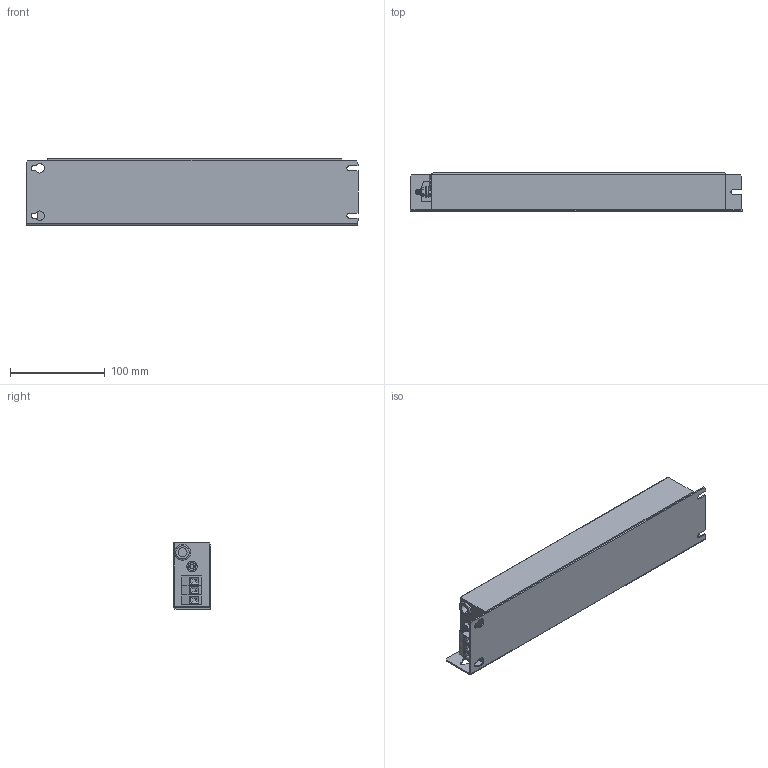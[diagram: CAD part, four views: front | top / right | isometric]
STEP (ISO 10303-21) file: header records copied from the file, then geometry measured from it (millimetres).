
FILE_DESCRIPTION (( 'STEP AP203' ), '1' );
FILE_NAME ('NF-U-LE-8400-34008.STEP', '2024-04-16T13:20:04', ( '' ), ( '' ), 'SwSTEP 2.0', 'SolidWorks 2017', '' );
FILE_SCHEMA (( 'CONFIG_CONTROL_DESIGN' ));
Length unit declared in the file: millimetre
Products named in the file (9): Grommet_15084; NF-U-LE-8400-34008; VDFK-4; M5x13 Earth post; hex screw_am_B18.6.7M - M5 x 0.8 x 13 Indented HHMS --13S; hex nut style 1_am_B18.2.4.1M - Hex nut, Style 1,  M5 x 0.8 --D-N; VDFK4x3; 84LZ3; flat washer narrow_am_B18.22M - Plain washer, 5 mm, narrow
Assembly tree (11 placements, depth 3):
  NF-U-LE-8400-34008
    84LZ3
    Grommet_15084
    VDFK4x3
      VDFK-4  x3
    M5x13 Earth post
      hex screw_am_B18.6.7M - M5 x 0.8 x 13 Indented HHMS --13S
      flat washer narrow_am_B18.22M - Plain washer, 5 mm, narrow  x2
      hex nut style 1_am_B18.2.4.1M - Hex nut, Style 1,  M5 x 0.8 --D-N
Bounding box: 350 x 40 x 70 mm (x, y, z)
Volume: 877267.4 mm3; surface area: 89279 mm2
Topology: 9 solids, 9 shells, 369 faces, 900 edges, 566 vertices
Faces by surface type: plane 164, cylinder 103, cone 96, torus 4, sphere 2
Entity records: 9675 total; most frequent: CARTESIAN_POINT 1613, DIRECTION 1598, ORIENTED_EDGE 1408, EDGE_CURVE 704, AXIS2_PLACEMENT_3D 627, VERTEX_POINT 442, VECTOR 344, LINE 344
